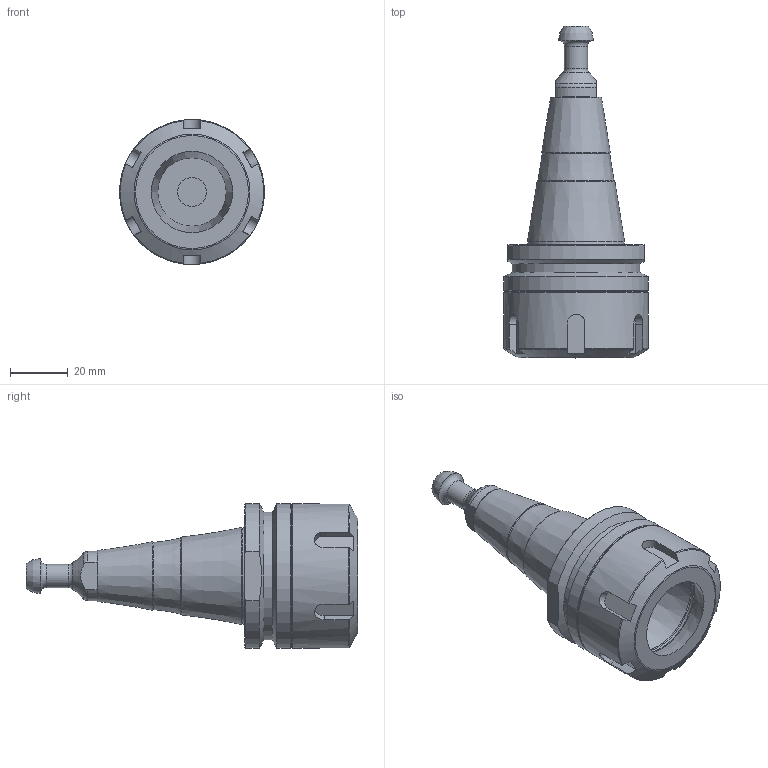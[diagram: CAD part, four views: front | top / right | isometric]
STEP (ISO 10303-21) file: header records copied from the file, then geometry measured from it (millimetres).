
FILE_DESCRIPTION(/* description */ (''),/* implementation_level */ '2;1');
FILE_NAME(/* name */ 'X:\Проектный отдел\Слава\STEP\ISO30-ER32-45.stp',/* time_stamp */ '2022-02-07T11:15:20+03:00',/* author */ ('Евгений'),/* organization */ (''),/* preprocessor_version */ 'ST-DEVELOPER v18',/* originating_system */ 'Autodesk Inventor 2020',/* authorisation */ '');
FILE_SCHEMA (('AUTOMOTIVE_DESIGN { 1 0 10303 214 3 1 1 }'));
Length unit declared in the file: millimetre
Products named in the file (3): ISO30-ER32-60_сборка; ISO30-ER32-60; ISO30-ER32-60_nut
Assembly tree (2 placements, depth 2):
  ISO30-ER32-60_сборка
    ISO30-ER32-60
    ISO30-ER32-60_nut
Bounding box: 50 x 114.5 x 50 mm (x, y, z)
Volume: 72545.2 mm3; surface area: 25610.5 mm2
Topology: 3 solids, 3 shells, 92 faces, 254 edges, 175 vertices
Faces by surface type: plane 36, cone 28, cylinder 21, torus 6, bspline 1
Full cylindrical faces by diameter (mm): 3 x2, 8 x1, 10 x1, 23.568 x1, 32 x1, 40 x2, 44 x1, 50 x2
Entity records: 3378 total; most frequent: CARTESIAN_POINT 781, DIRECTION 531, ORIENTED_EDGE 508, EDGE_CURVE 254, AXIS2_PLACEMENT_3D 220, VERTEX_POINT 175, CIRCLE 124, EDGE_LOOP 101
